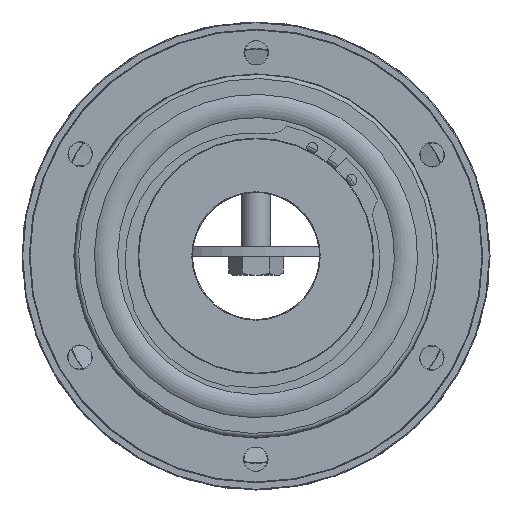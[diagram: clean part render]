
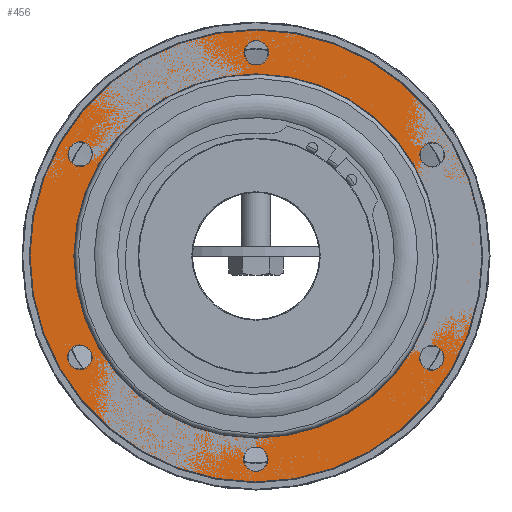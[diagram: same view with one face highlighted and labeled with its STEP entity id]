
A CAD part, left-side view. The second image highlights one B-rep face of the part: STEP entity #456.
In plain terms, the highlighted planar face has unit normal (-1, 0, 0).
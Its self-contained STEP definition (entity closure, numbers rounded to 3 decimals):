
#456 = ADVANCED_FACE( '', ( #886, #887, #888, #889, #890, #891, #892, #893 ), #894, .F. );
#886 = FACE_OUTER_BOUND( '', #1391, .T. );
#887 = FACE_BOUND( '', #1392, .T. );
#888 = FACE_BOUND( '', #1393, .T. );
#889 = FACE_BOUND( '', #1394, .T. );
#890 = FACE_BOUND( '', #1395, .T. );
#891 = FACE_BOUND( '', #1396, .T. );
#892 = FACE_BOUND( '', #1397, .T. );
#893 = FACE_BOUND( '', #1398, .T. );
#894 = PLANE( '', #1399 );
#1391 = EDGE_LOOP( '', ( #2392 ) );
#1392 = EDGE_LOOP( '', ( #2393 ) );
#1393 = EDGE_LOOP( '', ( #2394 ) );
#1394 = EDGE_LOOP( '', ( #2395 ) );
#1395 = EDGE_LOOP( '', ( #2396 ) );
#1396 = EDGE_LOOP( '', ( #2397 ) );
#1397 = EDGE_LOOP( '', ( #2398 ) );
#1398 = EDGE_LOOP( '', ( #2399 ) );
#1399 = AXIS2_PLACEMENT_3D( '', #2400, #2401, #2402 );
#2392 = ORIENTED_EDGE( '', *, *, #2799, .T. );
#2393 = ORIENTED_EDGE( '', *, *, #2797, .T. );
#2394 = ORIENTED_EDGE( '', *, *, #2800, .T. );
#2395 = ORIENTED_EDGE( '', *, *, #2801, .T. );
#2396 = ORIENTED_EDGE( '', *, *, #2802, .T. );
#2397 = ORIENTED_EDGE( '', *, *, #2803, .T. );
#2398 = ORIENTED_EDGE( '', *, *, #2804, .T. );
#2399 = ORIENTED_EDGE( '', *, *, #2805, .T. );
#2400 = CARTESIAN_POINT( '', ( -24.15, 62.5, 0. ) );
#2401 = DIRECTION( '', ( 1., 0., 0. ) );
#2402 = DIRECTION( '', ( 0., 1., 0. ) );
#2797 = EDGE_CURVE( '', #3241, #3241, #3242, .T. );
#2799 = EDGE_CURVE( '', #3245, #3245, #3246, .T. );
#2800 = EDGE_CURVE( '', #3247, #3247, #3248, .T. );
#2801 = EDGE_CURVE( '', #3249, #3249, #3250, .T. );
#2802 = EDGE_CURVE( '', #3251, #3251, #3252, .T. );
#2803 = EDGE_CURVE( '', #3253, #3253, #3254, .T. );
#2804 = EDGE_CURVE( '', #3255, #3255, #3256, .T. );
#2805 = EDGE_CURVE( '', #3257, #3257, #3258, .T. );
#3241 = VERTEX_POINT( '', #4217 );
#3242 = CIRCLE( '', #4218, 50.2 );
#3245 = VERTEX_POINT( '', #4221 );
#3246 = CIRCLE( '', #4222, 62.3 );
#3247 = VERTEX_POINT( '', #4223 );
#3248 = CIRCLE( '', #4224, 3.324 );
#3249 = VERTEX_POINT( '', #4225 );
#3250 = CIRCLE( '', #4226, 3.324 );
#3251 = VERTEX_POINT( '', #4227 );
#3252 = CIRCLE( '', #4228, 3.324 );
#3253 = VERTEX_POINT( '', #4229 );
#3254 = CIRCLE( '', #4230, 3.324 );
#3255 = VERTEX_POINT( '', #4231 );
#3256 = CIRCLE( '', #4232, 3.324 );
#3257 = VERTEX_POINT( '', #4233 );
#3258 = CIRCLE( '', #4234, 3.324 );
#4217 = CARTESIAN_POINT( '', ( -24.15, 0., -50.2 ) );
#4218 = AXIS2_PLACEMENT_3D( '', #4777, #4778, #4779 );
#4221 = CARTESIAN_POINT( '', ( -24.15, 0., -62.3 ) );
#4222 = AXIS2_PLACEMENT_3D( '', #4783, #4784, #4785 );
#4223 = CARTESIAN_POINT( '', ( -24.15, 51.376, 29.662 ) );
#4224 = AXIS2_PLACEMENT_3D( '', #4786, #4787, #4788 );
#4225 = CARTESIAN_POINT( '', ( -24.15, 51.376, -29.662 ) );
#4226 = AXIS2_PLACEMENT_3D( '', #4789, #4790, #4791 );
#4227 = CARTESIAN_POINT( '', ( -24.15, 0., -59.324 ) );
#4228 = AXIS2_PLACEMENT_3D( '', #4792, #4793, #4794 );
#4229 = CARTESIAN_POINT( '', ( -24.15, -51.376, -29.662 ) );
#4230 = AXIS2_PLACEMENT_3D( '', #4795, #4796, #4797 );
#4231 = CARTESIAN_POINT( '', ( -24.15, -51.376, 29.662 ) );
#4232 = AXIS2_PLACEMENT_3D( '', #4798, #4799, #4800 );
#4233 = CARTESIAN_POINT( '', ( -24.15, 0., 59.324 ) );
#4234 = AXIS2_PLACEMENT_3D( '', #4801, #4802, #4803 );
#4777 = CARTESIAN_POINT( '', ( -24.15, 0., 0. ) );
#4778 = DIRECTION( '', ( 1., 0., 0. ) );
#4779 = DIRECTION( '', ( 0., 0., -1. ) );
#4783 = CARTESIAN_POINT( '', ( -24.15, 0., 0. ) );
#4784 = DIRECTION( '', ( -1., 0., 0. ) );
#4785 = DIRECTION( '', ( 0., 0., -1. ) );
#4786 = CARTESIAN_POINT( '', ( -24.15, 48.497, 28. ) );
#4787 = DIRECTION( '', ( 1., 0., 0. ) );
#4788 = DIRECTION( '', ( 0., 0.866, 0.5 ) );
#4789 = CARTESIAN_POINT( '', ( -24.15, 48.497, -28. ) );
#4790 = DIRECTION( '', ( 1., 0., 0. ) );
#4791 = DIRECTION( '', ( 0., 0.866, -0.5 ) );
#4792 = CARTESIAN_POINT( '', ( -24.15, 0., -56. ) );
#4793 = DIRECTION( '', ( 1., 0., 0. ) );
#4794 = DIRECTION( '', ( 0., 0., -1. ) );
#4795 = CARTESIAN_POINT( '', ( -24.15, -48.497, -28. ) );
#4796 = DIRECTION( '', ( 1., 0., 0. ) );
#4797 = DIRECTION( '', ( 0., -0.866, -0.5 ) );
#4798 = CARTESIAN_POINT( '', ( -24.15, -48.497, 28. ) );
#4799 = DIRECTION( '', ( 1., 0., 0. ) );
#4800 = DIRECTION( '', ( 0., -0.866, 0.5 ) );
#4801 = CARTESIAN_POINT( '', ( -24.15, 0., 56. ) );
#4802 = DIRECTION( '', ( 1., 0., 0. ) );
#4803 = DIRECTION( '', ( 0., 0., 1. ) );
